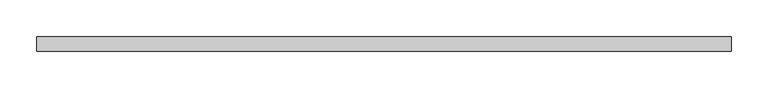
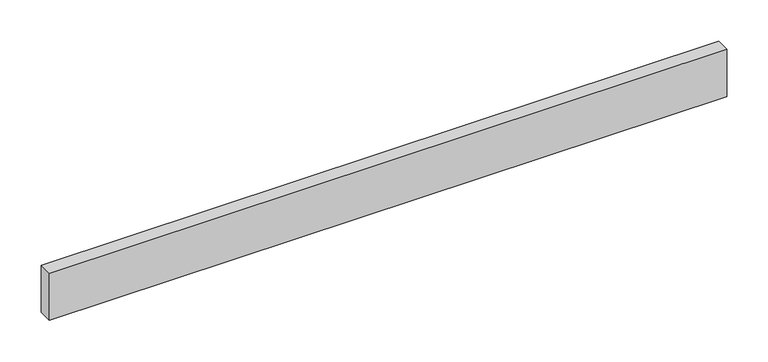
"""IFC4 building model written with IfcOpenShell, lengths in millimetres: furniture geometry, Frontispício : Frontispício."""

from ifc_helpers import new_model, si_unit, origin, origin_with_axes, place, context, project, spatial, polyline, outline, extrude, source, transform, mapped, element, save


def furniture_0e66150f(model_context):
    return source(origin(), model_context, "Body", "SweptSolid", [
        extrude(outline(polyline([(173.677619, 0.0), (173.677619, -20.0), (-776.322381, -20.0), (-776.322381, 0.0), (173.677619, 0.0)])), origin_with_axes(), (0.0, 0.0, 1.0), 70.0),
    ])


if __name__ == "__main__":
    model = new_model("IFC4")
    model_context = context("Model", 3, world=origin())
    ifc_project = project(units=[si_unit("LENGTHUNIT", "METRE", prefix="MILLI")], contexts=[model_context])
    site = spatial("IfcSite", under=ifc_project)
    building = spatial("IfcBuilding", under=site)
    placement = place(None, origin())
    furniture_shape = furniture_0e66150f(model_context)
    element("IfcFurniture", 1, ObjectType="Frontispício : Frontispício", at=placement, inside=building, context=model_context, shape_type="MappedRepresentation", body=[
        mapped(furniture_shape, transform((0.0, 0.0, 0.0), x_axis=(1.0, 0.0, 0.0), y_axis=(0.0, 1.0, 0.0), z_axis=(0.0, 0.0, 1.0))),
    ])
    save(model, "model.ifc")
